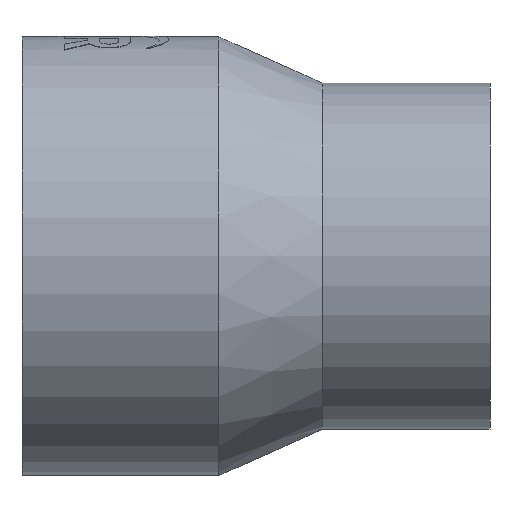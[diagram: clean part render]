
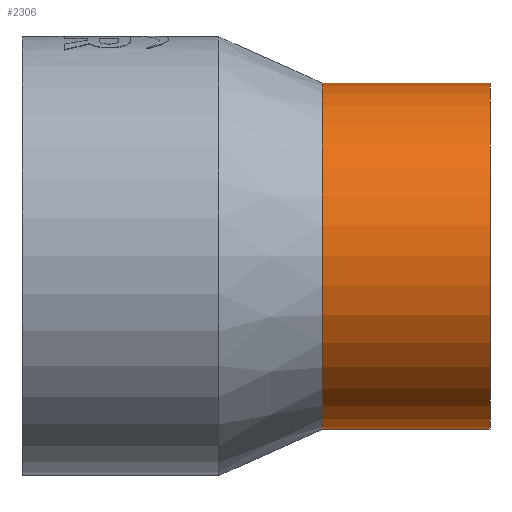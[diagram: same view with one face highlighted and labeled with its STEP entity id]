
A CAD part, front view. The second image highlights one B-rep face of the part: STEP entity #2306.
In plain terms, the highlighted cylindrical face has radius 177.5 mm (diameter 355 mm), a partial arc.
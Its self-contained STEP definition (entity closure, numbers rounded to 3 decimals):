
#390 = AXIS2_PLACEMENT_3D ( 'NONE', #3088, #3175, #3075 ) ;
#720 = VERTEX_POINT ( 'NONE', #2437 ) ;
#724 = LINE ( 'NONE', #1958, #3491 ) ;
#763 = ORIENTED_EDGE ( 'NONE', *, *, #2600, .F. ) ;
#1049 = CYLINDRICAL_SURFACE ( 'NONE', #390, 177.5 ) ;
#1152 = EDGE_CURVE ( 'NONE', #1170, #2571, #724, .T. ) ;
#1170 = VERTEX_POINT ( 'NONE', #1655 ) ;
#1266 = FACE_OUTER_BOUND ( 'NONE', #3146, .T. ) ;
#1272 = CIRCLE ( 'NONE', #2674, 177.5 ) ;
#1360 = CIRCLE ( 'NONE', #2752, 177.5 ) ;
#1400 = DIRECTION ( 'NONE',  ( 0., 0., 1. ) ) ;
#1409 = DIRECTION ( 'NONE',  ( -1., 0., 0. ) ) ;
#1425 = CARTESIAN_POINT ( 'NONE',  ( 480., 0., 0. ) ) ;
#1577 = EDGE_CURVE ( 'NONE', #720, #1682, #3701, .T. ) ;
#1655 = CARTESIAN_POINT ( 'NONE',  ( 480., 0., -177.5 ) ) ;
#1682 = VERTEX_POINT ( 'NONE', #2499 ) ;
#1784 = DIRECTION ( 'NONE',  ( -1., 0., 0. ) ) ;
#1958 = CARTESIAN_POINT ( 'NONE',  ( -0.3, 0., -177.5 ) ) ;
#1968 = DIRECTION ( 'NONE',  ( 0., 0., 1. ) ) ;
#2004 = DIRECTION ( 'NONE',  ( -1., 0., 0. ) ) ;
#2024 = CARTESIAN_POINT ( 'NONE',  ( 308., 0., 0. ) ) ;
#2306 = ADVANCED_FACE ( 'NONE', ( #1266 ), #1049, .T. ) ;
#2437 = CARTESIAN_POINT ( 'NONE',  ( 480., 0., 177.5 ) ) ;
#2499 = CARTESIAN_POINT ( 'NONE',  ( 308., 0., 177.5 ) ) ;
#2562 = CARTESIAN_POINT ( 'NONE',  ( -0.3, 0., 177.5 ) ) ;
#2571 = VERTEX_POINT ( 'NONE', #3056 ) ;
#2599 = ORIENTED_EDGE ( 'NONE', *, *, #1577, .T. ) ;
#2600 = EDGE_CURVE ( 'NONE', #2571, #1682, #1360, .T. ) ;
#2637 = EDGE_CURVE ( 'NONE', #1170, #720, #1272, .T. ) ;
#2674 = AXIS2_PLACEMENT_3D ( 'NONE', #1425, #1409, #1400 ) ;
#2752 = AXIS2_PLACEMENT_3D ( 'NONE', #2024, #2004, #1968 ) ;
#2896 = ORIENTED_EDGE ( 'NONE', *, *, #1152, .F. ) ;
#3056 = CARTESIAN_POINT ( 'NONE',  ( 308., 0., -177.5 ) ) ;
#3075 = DIRECTION ( 'NONE',  ( 0., 0., 1. ) ) ;
#3088 = CARTESIAN_POINT ( 'NONE',  ( -0.3, 0., 0. ) ) ;
#3146 = EDGE_LOOP ( 'NONE', ( #2896, #3656, #2599, #763 ) ) ;
#3175 = DIRECTION ( 'NONE',  ( -1., 0., 0. ) ) ;
#3491 = VECTOR ( 'NONE', #1784, 1000. ) ;
#3640 = VECTOR ( 'NONE', #3721, 1000. ) ;
#3656 = ORIENTED_EDGE ( 'NONE', *, *, #2637, .T. ) ;
#3701 = LINE ( 'NONE', #2562, #3640 ) ;
#3721 = DIRECTION ( 'NONE',  ( -1., 0., 0. ) ) ;
